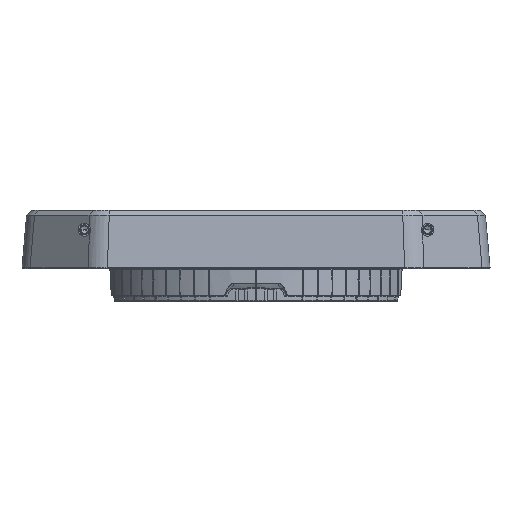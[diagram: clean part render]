
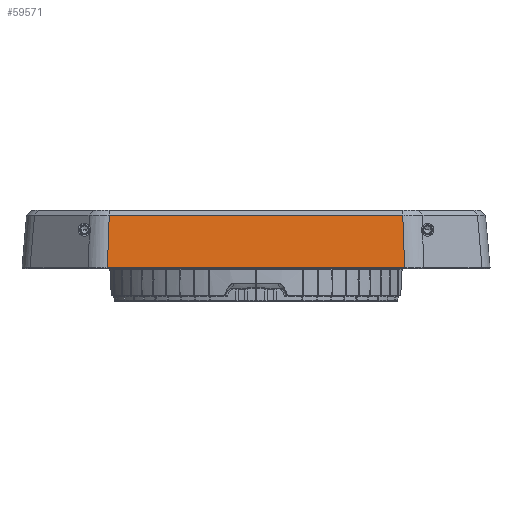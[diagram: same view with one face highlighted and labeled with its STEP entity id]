
A CAD part, front view. The second image highlights one B-rep face of the part: STEP entity #59571.
In plain terms, the highlighted planar face has unit normal (0, -0.996, 0.087).
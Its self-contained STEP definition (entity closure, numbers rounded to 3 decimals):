
#15785=CARTESIAN_POINT('',( 152.407,-214.905, 1.087));
#15786=VERTEX_POINT('',#15785);
#15824=CARTESIAN_POINT('',(-152.407,-214.905, 1.087));
#15825=VERTEX_POINT('',#15824);
#15834=CARTESIAN_POINT('',(-152.407,-214.905, 1.087));
#15835=DIRECTION('',( 1., 0.,0.));
#15836=VECTOR('',#15835, 304.814);
#15837=LINE('',#15834,#15836);
#15838=EDGE_CURVE('',#15825,#15786,#15837,.T.);
#59513=CARTESIAN_POINT('',( 150.454,-210.19, 54.979));
#59514=VERTEX_POINT('',#59513);
#59524=CARTESIAN_POINT('',( 152.407,-214.905, 1.087));
#59525=DIRECTION('',(-0.036, 0.087, 0.996));
#59526=VECTOR('',#59525, 54.133);
#59527=LINE('',#59524,#59526);
#59528=EDGE_CURVE('',#15786,#59514,#59527,.T.);
#59548=CARTESIAN_POINT('',(-150.454,-210.19, 54.979));
#59549=VERTEX_POINT('',#59548);
#59550=CARTESIAN_POINT('',(-150.454,-210.19, 54.979));
#59551=DIRECTION('',(-0.036,-0.087,-0.996));
#59552=VECTOR('',#59551, 54.133);
#59553=LINE('',#59550,#59552);
#59554=EDGE_CURVE('',#59549,#15825,#59553,.T.);
#59555=ORIENTED_EDGE('',*,*,#59554,.T.);
#59556=ORIENTED_EDGE('',*,*,#15838,.T.);
#59557=ORIENTED_EDGE('',*,*,#59528,.T.);
#59558=CARTESIAN_POINT('',( 150.454,-210.19, 54.979));
#59559=DIRECTION('',(-1., 0.,0.));
#59560=VECTOR('',#59559, 300.908);
#59561=LINE('',#59558,#59560);
#59562=EDGE_CURVE('',#59514,#59549,#59561,.T.);
#59563=ORIENTED_EDGE('',*,*,#59562,.T.);
#59564=CARTESIAN_POINT('',( 0.,-215., 0.));
#59565=DIRECTION('',(0., 0.996,-0.087));
#59566=DIRECTION('',(-1.,0., 0.));
#59567=AXIS2_PLACEMENT_3D('',#59564,#59565,#59566);
#59568=PLANE('',#59567);
#59569=EDGE_LOOP('',(#59555,#59556,#59557,#59563));
#59570=FACE_OUTER_BOUND('',#59569,.T.);
#59571=ADVANCED_FACE('',(#59570),#59568,.F.);
